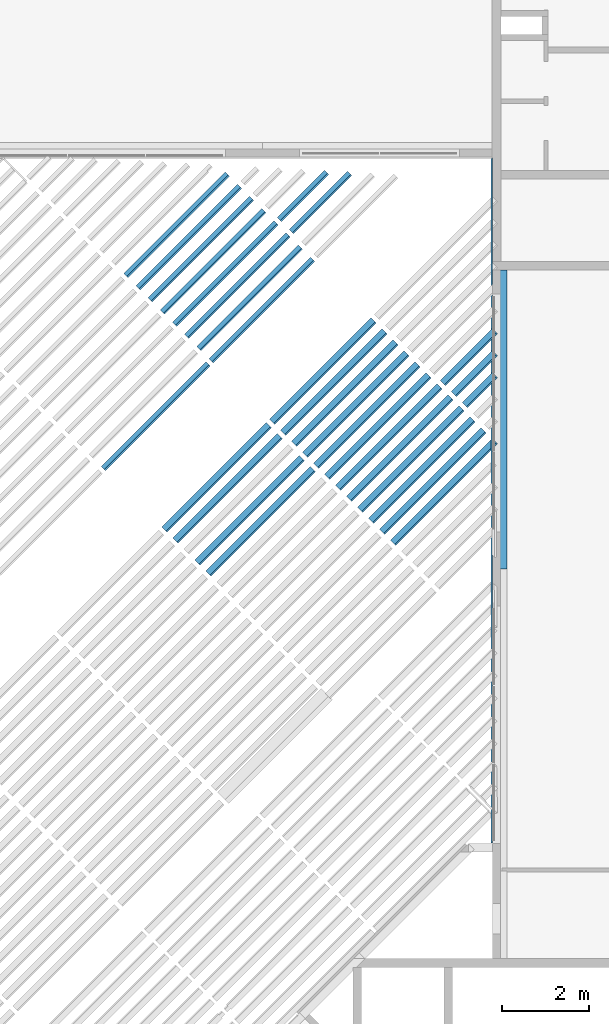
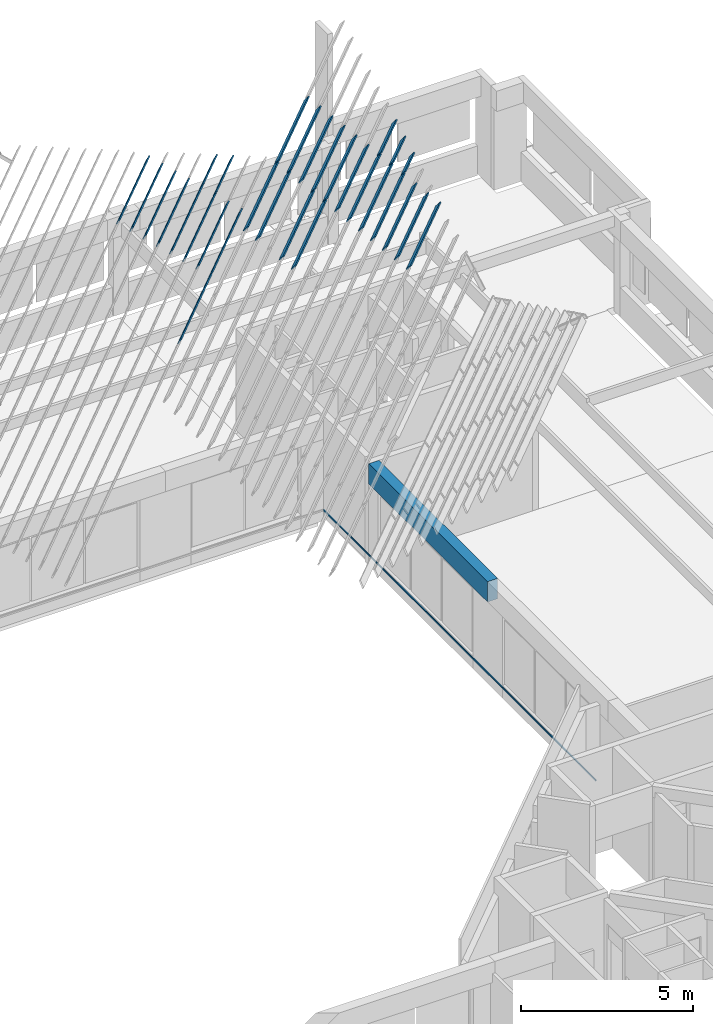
# One storey, part 13 of 37: 31 beams, 1 member.
"""IFC4X3_ADD2 building model written with IfcOpenShell, lengths in millimetres."""

from ifc_helpers import new_model, si_unit, direction, frame, origin_with_axes, origin_2d_with_axis, place, context, subcontext, project, spatial, rectangle, extrude, polygons, source, transform, mapped, material, type_object, type_shapes, element, save


model = new_model("IFC4X3_ADD2")

# Units and contexts
model_context = context("Model", 3, precision=1e-05, world=origin_with_axes(), true_north=direction((0.0, 1.0)))
body_context = subcontext(model_context, "Body", "Model", "MODEL_VIEW")
ifc_project = project(units=[si_unit("LENGTHUNIT", "METRE", prefix="MILLI"), si_unit("AREAUNIT", "SQUARE_METRE"), si_unit("VOLUMEUNIT", "CUBIC_METRE"), si_unit("PLANEANGLEUNIT", "RADIAN"), si_unit("TIMEUNIT", "SECOND"), si_unit("MASSUNIT", "GRAM")], contexts=[model_context])

# Site, building, storey
site_placement = place(None, origin_with_axes())
site = spatial("IfcSite", under=ifc_project, at=site_placement, Name="Site", CompositionType="ELEMENT")
building_placement = place(site_placement, origin_with_axes())
building = spatial("IfcBuilding", under=site, at=building_placement, Name="IFC Building Story")
storey_placement = place(building_placement, frame((0.0, 0.0, 3600.0), z_axis=(0.0, 0.0, 1.0), x_axis=(1.0, 0.0, 0.0)))
storey = spatial("IfcBuildingStorey", under=building, at=storey_placement, Name="010", Elevation=3600.0)

# Beams
ifc_material_1 = material(Name="BB_Beton_Bestaand")
beam_type_1 = type_object("IfcBeamType", Name="BB_XX_Betonbalk_ rechthoekig_ center-center_SFB_340 x 720 mm55", PredefinedType="NOTDEFINED")
shared_shape_1 = source(origin_with_axes(), body_context, "Body", "SweptSolid", [
    extrude(rectangle(XDim=6900.00000000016, YDim=340.0, at=origin_2d_with_axis()), frame((-5.002220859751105e-12, 0.0, -360.0), z_axis=(0.0, 0.0, 1.0), x_axis=(1.0, 0.0, 0.0)), (0.0, 0.0, 1.0), 720.0),
])
type_shapes(beam_type_1, [shared_shape_1])
beam_1_placement = place(storey_placement, frame((-12525.0040658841, 32550.0, 3040.0), z_axis=(0.0, 0.0, 1.0), x_axis=(0.0, 1.0, 0.0)))
element("IfcBeam", 1, at=beam_1_placement, inside=storey, type_object=beam_type_1, material=ifc_material_1, Name="BB_XX_Betonbalk, rechthoekig, center-center_SFB:340 x 720 mm", ObjectType="340 x 720 mm", PredefinedType="BEAM", context=body_context, shape_type="MappedRepresentation", body=[
    mapped(shared_shape_1, transform((0.0, 0.0, 0.0))),
])
ifc_material_2 = material(Name="GVH_i2_naaldhout_generiek")
beam_type_2 = type_object("IfcBeamType", Name="28_SF_hout_rechthoekig_40 x 230", PredefinedType="NOTDEFINED")
shared_shape_2 = source(origin_with_axes(), body_context, "Body", "SweptSolid", [
    extrude(rectangle(XDim=3317.28004584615, YDim=40.0000000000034, at=origin_2d_with_axis()), frame((-49.08169828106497, 0.0, -115.0), z_axis=(0.0, 0.0, 1.0), x_axis=(1.0, 0.0, 0.0)), (0.0, 0.0, 1.0), 229.9999999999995),
])
type_shapes(beam_type_2, [shared_shape_2])
beam_2_placement = place(storey_placement, frame((-18053.7015192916, 35040.3509081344, 13650.1221194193), z_axis=(0.311937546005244, -0.311937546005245, 0.8974351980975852), x_axis=(-0.7071067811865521, -0.707106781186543, 0.0)))
element("IfcBeam", 2, at=beam_2_placement, inside=storey, type_object=beam_type_2, material=ifc_material_2, Name="28_SF_hout_rechthoekig:40 x 230", ObjectType="40 x 230", PredefinedType="BEAM", context=body_context, shape_type="MappedRepresentation", body=[
    mapped(shared_shape_2, transform((0.0, 0.0, 0.0))),
])
beam_type_3 = type_object("IfcBeamType", Name="28_SF_hout_rechthoekig_40 x 230_1", PredefinedType="NOTDEFINED")
shared_shape_3 = source(origin_with_axes(), body_context, "Body", "SweptSolid", [
    extrude(rectangle(XDim=3317.2800940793, YDim=40.0000000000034, at=origin_2d_with_axis()), frame((-49.08180880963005, 0.0, -115.0), z_axis=(0.0, 0.0, 1.0), x_axis=(1.0, 0.0, 0.0)), (0.0, 0.0, 1.0), 229.9999999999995),
])
type_shapes(beam_type_3, [shared_shape_3])
beam_3_placement = place(storey_placement, frame((-18334.6946566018, 35321.3440454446, 13845.4617046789), z_axis=(0.311937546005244, -0.311937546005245, 0.8974351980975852), x_axis=(-0.7071067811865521, -0.707106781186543, 0.0)))
element("IfcBeam", 3, at=beam_3_placement, inside=storey, type_object=beam_type_3, material=ifc_material_2, Name="28_SF_hout_rechthoekig:40 x 230", ObjectType="40 x 230", PredefinedType="BEAM", context=body_context, shape_type="MappedRepresentation", body=[
    mapped(shared_shape_3, transform((0.0, 0.0, 0.0))),
])
beam_type_4 = type_object("IfcBeamType", Name="28_SF_hout_rechthoekig_40 x 230_3", PredefinedType="NOTDEFINED")
shared_shape_4 = source(origin_with_axes(), body_context, "Body", "SweptSolid", [
    extrude(rectangle(XDim=3317.28014231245, YDim=40.0000000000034, at=origin_2d_with_axis()), frame((-49.08191933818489, 0.0, -115.0), z_axis=(0.0, 0.0, 1.0), x_axis=(1.0, 0.0, 0.0)), (0.0, 0.0, 1.0), 229.9999999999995),
])
type_shapes(beam_type_4, [shared_shape_4])
beam_4_placement = place(storey_placement, frame((-18615.687793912, 35602.3371827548, 14040.8012899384), z_axis=(0.311937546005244, -0.311937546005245, 0.8974351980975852), x_axis=(-0.7071067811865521, -0.707106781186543, 0.0)))
element("IfcBeam", 4, at=beam_4_placement, inside=storey, type_object=beam_type_4, material=ifc_material_2, Name="28_SF_hout_rechthoekig:40 x 230", ObjectType="40 x 230", PredefinedType="BEAM", context=body_context, shape_type="MappedRepresentation", body=[
    mapped(shared_shape_4, transform((0.0, 0.0, 0.0))),
])
beam_type_5 = type_object("IfcBeamType", Name="28_SF_hout_rechthoekig_40 x 230_5", PredefinedType="NOTDEFINED")
shared_shape_5 = source(origin_with_axes(), body_context, "Body", "SweptSolid", [
    extrude(rectangle(XDim=3317.28019054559, YDim=40.0000000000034, at=origin_2d_with_axis()), frame((-49.08202986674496, 0.0, -115.0), z_axis=(0.0, 0.0, 1.0), x_axis=(1.0, 0.0, 0.0)), (0.0, 0.0, 1.0), 229.999999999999),
])
type_shapes(beam_type_5, [shared_shape_5])
beam_5_placement = place(storey_placement, frame((-18896.6809312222, 35883.3303200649, 14236.140875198), z_axis=(0.311937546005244, -0.311937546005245, 0.8974351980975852), x_axis=(-0.7071067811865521, -0.707106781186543, 0.0)))
element("IfcBeam", 5, at=beam_5_placement, inside=storey, type_object=beam_type_5, material=ifc_material_2, Name="28_SF_hout_rechthoekig:40 x 230", ObjectType="40 x 230", PredefinedType="BEAM", context=body_context, shape_type="MappedRepresentation", body=[
    mapped(shared_shape_5, transform((0.0, 0.0, 0.0))),
])
beam_type_6 = type_object("IfcBeamType", Name="28_SF_hout_rechthoekig_40 x 230_7", PredefinedType="NOTDEFINED")
shared_shape_6 = source(origin_with_axes(), body_context, "Body", "SweptSolid", [
    extrude(rectangle(XDim=3317.28023877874, YDim=40.0000000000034, at=origin_2d_with_axis()), frame((-49.08214039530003, 0.0, -115.0), z_axis=(0.0, 0.0, 1.0), x_axis=(1.0, 0.0, 0.0)), (0.0, 0.0, 1.0), 229.999999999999),
])
type_shapes(beam_type_6, [shared_shape_6])
beam_6_placement = place(storey_placement, frame((-19177.6740685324, 36164.3234573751, 14431.4804604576), z_axis=(0.311937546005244, -0.311937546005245, 0.8974351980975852), x_axis=(-0.7071067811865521, -0.707106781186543, 0.0)))
element("IfcBeam", 6, at=beam_6_placement, inside=storey, type_object=beam_type_6, material=ifc_material_2, Name="28_SF_hout_rechthoekig:40 x 230", ObjectType="40 x 230", PredefinedType="BEAM", context=body_context, shape_type="MappedRepresentation", body=[
    mapped(shared_shape_6, transform((0.0, 0.0, 0.0))),
])
beam_type_7 = type_object("IfcBeamType", Name="28_SF_hout_rechthoekig_40 x 230_9", PredefinedType="NOTDEFINED")
shared_shape_7 = source(origin_with_axes(), body_context, "Body", "SweptSolid", [
    extrude(rectangle(XDim=3317.28028701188, YDim=40.0000000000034, at=origin_2d_with_axis()), frame((-49.0822509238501, 0.0, -115.0), z_axis=(0.0, 0.0, 1.0), x_axis=(1.0, 0.0, 0.0)), (0.0, 0.0, 1.0), 229.999999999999),
])
type_shapes(beam_type_7, [shared_shape_7])
beam_7_placement = place(storey_placement, frame((-19458.6672058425, 36445.3165946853, 14626.8200457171), z_axis=(0.311937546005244, -0.311937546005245, 0.8974351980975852), x_axis=(-0.7071067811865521, -0.707106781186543, 0.0)))
element("IfcBeam", 7, at=beam_7_placement, inside=storey, type_object=beam_type_7, material=ifc_material_2, Name="28_SF_hout_rechthoekig:40 x 230", ObjectType="40 x 230", PredefinedType="BEAM", context=body_context, shape_type="MappedRepresentation", body=[
    mapped(shared_shape_7, transform((0.0, 0.0, 0.0))),
])
beam_type_8 = type_object("IfcBeamType", Name="28_SF_hout_rechthoekig_40 x 230_11", PredefinedType="NOTDEFINED")
shared_shape_8 = source(origin_with_axes(), body_context, "Body", "SweptSolid", [
    extrude(rectangle(XDim=3317.28033524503, YDim=40.0000000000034, at=origin_2d_with_axis()), frame((-49.08236145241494, 0.0, -115.0), z_axis=(0.0, 0.0, 1.0), x_axis=(1.0, 0.0, 0.0)), (0.0, 0.0, 1.0), 229.999999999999),
])
type_shapes(beam_type_8, [shared_shape_8])
beam_8_placement = place(storey_placement, frame((-19739.6603431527, 36726.3097319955, 14822.1596309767), z_axis=(0.311937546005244, -0.311937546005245, 0.8974351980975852), x_axis=(-0.7071067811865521, -0.707106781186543, 0.0)))
element("IfcBeam", 8, at=beam_8_placement, inside=storey, type_object=beam_type_8, material=ifc_material_2, Name="28_SF_hout_rechthoekig:40 x 230", ObjectType="40 x 230", PredefinedType="BEAM", context=body_context, shape_type="MappedRepresentation", body=[
    mapped(shared_shape_8, transform((0.0, 0.0, 0.0))),
])
beam_type_9 = type_object("IfcBeamType", Name="28_SF_hout_rechthoekig_40 x 230_13", PredefinedType="NOTDEFINED")
shared_shape_9 = source(origin_with_axes(), body_context, "Body", "SweptSolid", [
    extrude(rectangle(XDim=3317.28038347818, YDim=40.0000000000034, at=origin_2d_with_axis()), frame((-64.08247198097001, 0.0, -115.0), z_axis=(0.0, 0.0, 1.0), x_axis=(1.0, 0.0, 0.0)), (0.0, 0.0, 1.0), 229.9999999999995),
])
type_shapes(beam_type_9, [shared_shape_9])
beam_9_placement = place(storey_placement, frame((-20031.2600821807, 36996.6962675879, 15017.4992162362), z_axis=(0.311937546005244, -0.311937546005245, 0.8974351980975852), x_axis=(-0.7071067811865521, -0.707106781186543, 0.0)))
element("IfcBeam", 9, at=beam_9_placement, inside=storey, type_object=beam_type_9, material=ifc_material_2, Name="28_SF_hout_rechthoekig:40 x 230", ObjectType="40 x 230", PredefinedType="BEAM", context=body_context, shape_type="MappedRepresentation", body=[
    mapped(shared_shape_9, transform((0.0, 0.0, 0.0))),
])
beam_type_10 = type_object("IfcBeamType", Name="28_SF_hout_rechthoekig_40 x 230_199", PredefinedType="NOTDEFINED")
shared_shape_10 = source(origin_with_axes(), body_context, "Body", "SweptSolid", [
    extrude(rectangle(XDim=3417.27000002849, YDim=40.0000000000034, at=origin_2d_with_axis()), frame((3.413324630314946, 0.0, -115.0), z_axis=(0.0, 0.0, 1.0), x_axis=(1.0, 0.0, 0.0)), (0.0, 0.0, 1.0), 229.999999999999),
])
type_shapes(beam_type_10, [shared_shape_10])
beam_10_placement = place(storey_placement, frame((-20468.3156135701, 32625.7368138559, 13650.1221194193), z_axis=(0.311937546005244, -0.311937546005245, 0.8974351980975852), x_axis=(-0.7071067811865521, -0.707106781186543, 0.0)))
element("IfcBeam", 10, at=beam_10_placement, inside=storey, type_object=beam_type_10, material=ifc_material_2, Name="28_SF_hout_rechthoekig:40 x 230", ObjectType="40 x 230", PredefinedType="BEAM", context=body_context, shape_type="MappedRepresentation", body=[
    mapped(shared_shape_10, transform((0.0, 0.0, 0.0))),
])
beam_type_11 = type_object("IfcBeamType", Name="28_SF_hout_rechthoekig_40 x 230_249", PredefinedType="NOTDEFINED")
shared_shape_11 = source(origin_with_axes(), body_context, "Body", "SweptSolid", [
    extrude(rectangle(XDim=1902.56835221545, YDim=40.0000000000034, at=origin_2d_with_axis()), frame((-51.72584502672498, 0.0, -115.0), z_axis=(0.0, 0.0, 1.0), x_axis=(1.0, 0.0, 0.0)), (0.0, 0.0, 1.0), 229.9999999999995),
])
type_shapes(beam_type_11, [shared_shape_11])
beam_11_placement = place(storey_placement, frame((-16701.3515199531, 37516.6734567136, 14040.8012899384), z_axis=(0.311937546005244, -0.311937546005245, 0.8974351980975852), x_axis=(-0.7071067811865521, -0.707106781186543, 0.0)))
element("IfcBeam", 11, at=beam_11_placement, inside=storey, type_object=beam_type_11, material=ifc_material_2, Name="28_SF_hout_rechthoekig:40 x 230", ObjectType="40 x 230", PredefinedType="BEAM", context=body_context, shape_type="MappedRepresentation", body=[
    mapped(shared_shape_11, transform((0.0, 0.0, 0.0))),
])
beam_type_12 = type_object("IfcBeamType", Name="28_SF_hout_rechthoekig_40 x 230_251", PredefinedType="NOTDEFINED")
shared_shape_12 = source(origin_with_axes(), body_context, "Body", "SweptSolid", [
    extrude(rectangle(XDim=1546.14576452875, YDim=40.0000000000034, at=origin_2d_with_axis()), frame((-33.51468582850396, 0.0, -115.0), z_axis=(0.0, 0.0, 1.0), x_axis=(1.0, 0.0, 0.0)), (0.0, 0.0, 1.0), 230.0),
])
type_shapes(beam_type_12, [shared_shape_12])
beam_12_placement = place(storey_placement, frame((-17095.4817422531, 37684.5295090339, 14236.140875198), z_axis=(0.311937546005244, -0.311937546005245, 0.8974351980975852), x_axis=(-0.7071067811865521, -0.707106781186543, 0.0)))
element("IfcBeam", 12, at=beam_12_placement, inside=storey, type_object=beam_type_12, material=ifc_material_2, Name="28_SF_hout_rechthoekig:40 x 230", ObjectType="40 x 230", PredefinedType="BEAM", context=body_context, shape_type="MappedRepresentation", body=[
    mapped(shared_shape_12, transform((0.0, 0.0, 0.0))),
])
beam_type_13 = type_object("IfcBeamType", Name="28_SF_hout_rechthoekig_40 x 230_485", PredefinedType="NOTDEFINED")
shared_shape_13 = source(origin_with_axes(), body_context, "Body", "SweptSolid", [
    extrude(rectangle(XDim=3415.44976851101, YDim=40.0000000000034, at=origin_2d_with_axis()), frame((-25.0772024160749, 0.0, -115.0), z_axis=(0.0, 0.0, 1.0), x_axis=(1.0, 0.0, 0.0)), (0.0, 0.0, 1.0), 229.999999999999),
])
type_shapes(beam_type_13, [shared_shape_13])
beam_13_placement = place(storey_placement, frame((-18063.8369916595, 30179.6885491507, 16900.9736820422), z_axis=(0.4307932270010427, -0.4307932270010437, 0.7929907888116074), x_axis=(-0.7071067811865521, -0.707106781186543, 0.0)))
element("IfcBeam", 13, at=beam_13_placement, inside=storey, type_object=beam_type_13, material=ifc_material_2, Name="28_SF_hout_rechthoekig:40 x 230", ObjectType="40 x 230", PredefinedType="BEAM", context=body_context, shape_type="MappedRepresentation", body=[
    mapped(shared_shape_13, transform((0.0, 0.0, 0.0))),
])
beam_type_14 = type_object("IfcBeamType", Name="28_SF_hout_rechthoekig_40 x 230_487", PredefinedType="NOTDEFINED")
shared_shape_14 = source(origin_with_axes(), body_context, "Body", "SweptSolid", [
    extrude(rectangle(XDim=3415.44981957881, YDim=40.0000000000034, at=origin_2d_with_axis()), frame((-25.07717688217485, 0.0, -115.0), z_axis=(0.0, 0.0, 1.0), x_axis=(1.0, 0.0, 0.0)), (0.0, 0.0, 1.0), 229.999999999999),
])
type_shapes(beam_type_14, [shared_shape_14])
beam_14_placement = place(storey_placement, frame((-18317.8473030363, 30433.6988605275, 17176.9565138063), z_axis=(0.4307932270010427, -0.4307932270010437, 0.7929907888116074), x_axis=(-0.7071067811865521, -0.707106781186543, 0.0)))
element("IfcBeam", 14, at=beam_14_placement, inside=storey, type_object=beam_type_14, material=ifc_material_2, Name="28_SF_hout_rechthoekig:40 x 230", ObjectType="40 x 230", PredefinedType="BEAM", context=body_context, shape_type="MappedRepresentation", body=[
    mapped(shared_shape_14, transform((0.0, 0.0, 0.0))),
])
beam_type_15 = type_object("IfcBeamType", Name="28_SF_hout_rechthoekig_40 x 230_491", PredefinedType="NOTDEFINED")
shared_shape_15 = source(origin_with_axes(), body_context, "Body", "SweptSolid", [
    extrude(rectangle(XDim=3415.44992171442, YDim=40.0000000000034, at=origin_2d_with_axis()), frame((-25.07712581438, 0.0, -115.0), z_axis=(0.0, 0.0, 1.0), x_axis=(1.0, 0.0, 0.0)), (0.0, 0.0, 1.0), 229.999999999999),
])
type_shapes(beam_type_15, [shared_shape_15])
beam_15_placement = place(storey_placement, frame((-18825.8679257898, 30941.719483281, 17728.9221773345), z_axis=(0.4307932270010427, -0.4307932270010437, 0.7929907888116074), x_axis=(-0.7071067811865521, -0.707106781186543, 0.0)))
element("IfcBeam", 15, at=beam_15_placement, inside=storey, type_object=beam_type_15, material=ifc_material_2, Name="28_SF_hout_rechthoekig:40 x 230", ObjectType="40 x 230", PredefinedType="BEAM", context=body_context, shape_type="MappedRepresentation", body=[
    mapped(shared_shape_15, transform((0.0, 0.0, 0.0))),
])
beam_type_16 = type_object("IfcBeamType", Name="28_SF_hout_rechthoekig_40 x 230_493", PredefinedType="NOTDEFINED")
shared_shape_16 = source(origin_with_axes(), body_context, "Body", "SweptSolid", [
    extrude(rectangle(XDim=3415.44997278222, YDim=40.0000000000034, at=origin_2d_with_axis()), frame((-25.07710028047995, 0.0, -115.0), z_axis=(0.0, 0.0, 1.0), x_axis=(1.0, 0.0, 0.0)), (0.0, 0.0, 1.0), 229.999999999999),
])
type_shapes(beam_type_16, [shared_shape_16])
beam_16_placement = place(storey_placement, frame((-19079.8782371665, 31195.7297946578, 18004.9050090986), z_axis=(0.4307932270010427, -0.4307932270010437, 0.7929907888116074), x_axis=(-0.7071067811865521, -0.707106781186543, 0.0)))
element("IfcBeam", 16, at=beam_16_placement, inside=storey, type_object=beam_type_16, material=ifc_material_2, Name="28_SF_hout_rechthoekig:40 x 230", ObjectType="40 x 230", PredefinedType="BEAM", context=body_context, shape_type="MappedRepresentation", body=[
    mapped(shared_shape_16, transform((0.0, 0.0, 0.0))),
])
beam_type_17 = type_object("IfcBeamType", Name="28_SF_hout_rechthoekig_40 x 230_495", PredefinedType="NOTDEFINED")
shared_shape_17 = source(origin_with_axes(), body_context, "Body", "SweptSolid", [
    extrude(rectangle(XDim=3319.10002722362, YDim=40.0000000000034, at=origin_2d_with_axis()), frame((27.64789971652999, 0.0, -115.0), z_axis=(0.0, 0.0, 1.0), x_axis=(1.0, 0.0, 0.0)), (0.0, 0.0, 1.0), 230.0),
])
type_shapes(beam_type_17, [shared_shape_17])
beam_17_placement = place(storey_placement, frame((-16590.8623673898, 33684.7456644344, 18004.9050090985), z_axis=(0.4307932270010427, -0.4307932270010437, 0.7929907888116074), x_axis=(-0.7071067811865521, -0.707106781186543, 0.0)))
element("IfcBeam", 17, at=beam_17_placement, inside=storey, type_object=beam_type_17, material=ifc_material_2, Name="28_SF_hout_rechthoekig:40 x 230", ObjectType="40 x 230", PredefinedType="BEAM", context=body_context, shape_type="MappedRepresentation", body=[
    mapped(shared_shape_17, transform((0.0, 0.0, 0.0))),
])
beam_type_18 = type_object("IfcBeamType", Name="28_SF_hout_rechthoekig_40 x 230_497", PredefinedType="NOTDEFINED")
shared_shape_18 = source(origin_with_axes(), body_context, "Body", "SweptSolid", [
    extrude(rectangle(XDim=3319.10007829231, YDim=40.0000000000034, at=origin_2d_with_axis()), frame((27.64787418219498, 0.0, -115.0), z_axis=(0.0, 0.0, 1.0), x_axis=(1.0, 0.0, 0.0)), (0.0, 0.0, 1.0), 230.0),
])
type_shapes(beam_type_18, [shared_shape_18])
beam_18_placement = place(storey_placement, frame((-16336.8520560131, 33430.7353530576, 17728.9221773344), z_axis=(0.4307932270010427, -0.4307932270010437, 0.7929907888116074), x_axis=(-0.7071067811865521, -0.707106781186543, 0.0)))
element("IfcBeam", 18, at=beam_18_placement, inside=storey, type_object=beam_type_18, material=ifc_material_2, Name="28_SF_hout_rechthoekig:40 x 230", ObjectType="40 x 230", PredefinedType="BEAM", context=body_context, shape_type="MappedRepresentation", body=[
    mapped(shared_shape_18, transform((0.0, 0.0, 0.0))),
])
beam_type_19 = type_object("IfcBeamType", Name="28_SF_hout_rechthoekig_40 x 230_499", PredefinedType="NOTDEFINED")
shared_shape_19 = source(origin_with_axes(), body_context, "Body", "SweptSolid", [
    extrude(rectangle(XDim=3319.10012936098, YDim=40.0000000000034, at=origin_2d_with_axis()), frame((27.6478486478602, 0.0, -115.0), z_axis=(0.0, 0.0, 1.0), x_axis=(1.0, 0.0, 0.0)), (0.0, 0.0, 1.0), 230.0),
])
type_shapes(beam_type_19, [shared_shape_19])
beam_19_placement = place(storey_placement, frame((-16082.8417446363, 33176.7250416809, 17452.9393455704), z_axis=(0.4307932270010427, -0.4307932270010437, 0.7929907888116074), x_axis=(-0.7071067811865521, -0.707106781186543, 0.0)))
element("IfcBeam", 19, at=beam_19_placement, inside=storey, type_object=beam_type_19, material=ifc_material_2, Name="28_SF_hout_rechthoekig:40 x 230", ObjectType="40 x 230", PredefinedType="BEAM", context=body_context, shape_type="MappedRepresentation", body=[
    mapped(shared_shape_19, transform((0.0, 0.0, 0.0))),
])
beam_type_20 = type_object("IfcBeamType", Name="28_SF_hout_rechthoekig_40 x 230_501", PredefinedType="NOTDEFINED")
shared_shape_20 = source(origin_with_axes(), body_context, "Body", "SweptSolid", [
    extrude(rectangle(XDim=3319.10018042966, YDim=40.0000000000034, at=origin_2d_with_axis()), frame((27.64782311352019, 0.0, -115.0), z_axis=(0.0, 0.0, 1.0), x_axis=(1.0, 0.0, 0.0)), (0.0, 0.0, 1.0), 230.0),
])
type_shapes(beam_type_20, [shared_shape_20])
beam_20_placement = place(storey_placement, frame((-15828.8314332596, 32922.7147303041, 17176.9565138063), z_axis=(0.4307932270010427, -0.4307932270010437, 0.7929907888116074), x_axis=(-0.7071067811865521, -0.707106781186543, 0.0)))
element("IfcBeam", 20, at=beam_20_placement, inside=storey, type_object=beam_type_20, material=ifc_material_2, Name="28_SF_hout_rechthoekig:40 x 230", ObjectType="40 x 230", PredefinedType="BEAM", context=body_context, shape_type="MappedRepresentation", body=[
    mapped(shared_shape_20, transform((0.0, 0.0, 0.0))),
])
beam_type_21 = type_object("IfcBeamType", Name="28_SF_hout_rechthoekig_40 x 230_503", PredefinedType="NOTDEFINED")
shared_shape_21 = source(origin_with_axes(), body_context, "Body", "SweptSolid", [
    extrude(rectangle(XDim=3319.10023149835, YDim=40.0000000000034, at=origin_2d_with_axis()), frame((27.64779757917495, 0.0, -115.0), z_axis=(0.0, 0.0, 1.0), x_axis=(1.0, 0.0, 0.0)), (0.0, 0.0, 1.0), 230.0),
])
type_shapes(beam_type_21, [shared_shape_21])
beam_21_placement = place(storey_placement, frame((-15574.8211218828, 32668.7044189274, 16900.9736820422), z_axis=(0.4307932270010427, -0.4307932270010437, 0.7929907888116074), x_axis=(-0.7071067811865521, -0.707106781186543, 0.0)))
element("IfcBeam", 21, at=beam_21_placement, inside=storey, type_object=beam_type_21, material=ifc_material_2, Name="28_SF_hout_rechthoekig:40 x 230", ObjectType="40 x 230", PredefinedType="BEAM", context=body_context, shape_type="MappedRepresentation", body=[
    mapped(shared_shape_21, transform((0.0, 0.0, 0.0))),
])
beam_type_22 = type_object("IfcBeamType", Name="28_SF_hout_rechthoekig_40 x 230_505", PredefinedType="NOTDEFINED")
shared_shape_22 = source(origin_with_axes(), body_context, "Body", "SweptSolid", [
    extrude(rectangle(XDim=3319.10028256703, YDim=40.0000000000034, at=origin_2d_with_axis()), frame((27.64777204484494, 0.0, -115.0), z_axis=(0.0, 0.0, 1.0), x_axis=(1.0, 0.0, 0.0)), (0.0, 0.0, 1.0), 230.0),
])
type_shapes(beam_type_22, [shared_shape_22])
beam_22_placement = place(storey_placement, frame((-15320.8108105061, 32414.6941075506, 16624.9908502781), z_axis=(0.4307932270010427, -0.4307932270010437, 0.7929907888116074), x_axis=(-0.7071067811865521, -0.707106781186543, 0.0)))
element("IfcBeam", 22, at=beam_22_placement, inside=storey, type_object=beam_type_22, material=ifc_material_2, Name="28_SF_hout_rechthoekig:40 x 230", ObjectType="40 x 230", PredefinedType="BEAM", context=body_context, shape_type="MappedRepresentation", body=[
    mapped(shared_shape_22, transform((0.0, 0.0, 0.0))),
])
beam_type_23 = type_object("IfcBeamType", Name="28_SF_hout_rechthoekig_40 x 230_507", PredefinedType="NOTDEFINED")
shared_shape_23 = source(origin_with_axes(), body_context, "Body", "SweptSolid", [
    extrude(rectangle(XDim=3319.1003336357, YDim=40.0000000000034, at=origin_2d_with_axis()), frame((27.64774651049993, 0.0, -115.0), z_axis=(0.0, 0.0, 1.0), x_axis=(1.0, 0.0, 0.0)), (0.0, 0.0, 1.0), 230.0),
])
type_shapes(beam_type_23, [shared_shape_23])
beam_23_placement = place(storey_placement, frame((-15066.8004991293, 32160.6837961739, 16349.008018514), z_axis=(0.4307932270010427, -0.4307932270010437, 0.7929907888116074), x_axis=(-0.7071067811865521, -0.707106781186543, 0.0)))
element("IfcBeam", 23, at=beam_23_placement, inside=storey, type_object=beam_type_23, material=ifc_material_2, Name="28_SF_hout_rechthoekig:40 x 230", ObjectType="40 x 230", PredefinedType="BEAM", context=body_context, shape_type="MappedRepresentation", body=[
    mapped(shared_shape_23, transform((0.0, 0.0, 0.0))),
])
beam_type_24 = type_object("IfcBeamType", Name="28_SF_hout_rechthoekig_40 x 230_509", PredefinedType="NOTDEFINED")
shared_shape_24 = source(origin_with_axes(), body_context, "Body", "SweptSolid", [
    extrude(rectangle(XDim=3319.10038470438, YDim=40.0000000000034, at=origin_2d_with_axis()), frame((27.64772097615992, 0.0, -115.0), z_axis=(0.0, 0.0, 1.0), x_axis=(1.0, 0.0, 0.0)), (0.0, 0.0, 1.0), 230.0),
])
type_shapes(beam_type_24, [shared_shape_24])
beam_24_placement = place(storey_placement, frame((-14812.7901877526, 31906.6734847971, 16073.0251867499), z_axis=(0.4307932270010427, -0.4307932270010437, 0.7929907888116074), x_axis=(-0.7071067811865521, -0.707106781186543, 0.0)))
element("IfcBeam", 24, at=beam_24_placement, inside=storey, type_object=beam_type_24, material=ifc_material_2, Name="28_SF_hout_rechthoekig:40 x 230", ObjectType="40 x 230", PredefinedType="BEAM", context=body_context, shape_type="MappedRepresentation", body=[
    mapped(shared_shape_24, transform((0.0, 0.0, 0.0))),
])
beam_type_25 = type_object("IfcBeamType", Name="28_SF_hout_rechthoekig_40 x 230_511", PredefinedType="NOTDEFINED")
shared_shape_25 = source(origin_with_axes(), body_context, "Body", "SweptSolid", [
    extrude(rectangle(XDim=3319.10043577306, YDim=40.0000000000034, at=origin_2d_with_axis()), frame((27.64769544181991, 0.0, -115.0), z_axis=(0.0, 0.0, 1.0), x_axis=(1.0, 0.0, 0.0)), (0.0, 0.0, 1.0), 230.0),
])
type_shapes(beam_type_25, [shared_shape_25])
beam_25_placement = place(storey_placement, frame((-14558.7798763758, 31652.6631734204, 15797.0423549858), z_axis=(0.4307932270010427, -0.4307932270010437, 0.7929907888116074), x_axis=(-0.7071067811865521, -0.707106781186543, 0.0)))
element("IfcBeam", 25, at=beam_25_placement, inside=storey, type_object=beam_type_25, material=ifc_material_2, Name="28_SF_hout_rechthoekig:40 x 230", ObjectType="40 x 230", PredefinedType="BEAM", context=body_context, shape_type="MappedRepresentation", body=[
    mapped(shared_shape_25, transform((0.0, 0.0, 0.0))),
])
beam_type_26 = type_object("IfcBeamType", Name="28_SF_hout_rechthoekig_40 x 230_513", PredefinedType="NOTDEFINED")
shared_shape_26 = source(origin_with_axes(), body_context, "Body", "SweptSolid", [
    extrude(rectangle(XDim=3319.10048684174, YDim=40.0000000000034, at=origin_2d_with_axis()), frame((27.64766990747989, 0.0, -115.0), z_axis=(0.0, 0.0, 1.0), x_axis=(1.0, 0.0, 0.0)), (0.0, 0.0, 1.0), 230.0),
])
type_shapes(beam_type_26, [shared_shape_26])
beam_26_placement = place(storey_placement, frame((-14304.7695649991, 31398.6528620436, 15521.0595232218), z_axis=(0.4307932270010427, -0.4307932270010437, 0.7929907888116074), x_axis=(-0.7071067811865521, -0.707106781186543, 0.0)))
element("IfcBeam", 26, at=beam_26_placement, inside=storey, type_object=beam_type_26, material=ifc_material_2, Name="28_SF_hout_rechthoekig:40 x 230", ObjectType="40 x 230", PredefinedType="BEAM", context=body_context, shape_type="MappedRepresentation", body=[
    mapped(shared_shape_26, transform((0.0, 0.0, 0.0))),
])
beam_type_27 = type_object("IfcBeamType", Name="28_SF_hout_rechthoekig_40 x 230_515", PredefinedType="NOTDEFINED")
shared_shape_27 = source(origin_with_axes(), body_context, "Body", "SweptSolid", [
    extrude(rectangle(XDim=3319.10053791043, YDim=40.0000000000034, at=origin_2d_with_axis()), frame((27.64764437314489, 0.0, -115.0), z_axis=(0.0, 0.0, 1.0), x_axis=(1.0, 0.0, 0.0)), (0.0, 0.0, 1.0), 230.0),
])
type_shapes(beam_type_27, [shared_shape_27])
beam_27_placement = place(storey_placement, frame((-14050.7592536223, 31144.6425506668, 15245.0766914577), z_axis=(0.4307932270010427, -0.4307932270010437, 0.7929907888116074), x_axis=(-0.7071067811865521, -0.707106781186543, 0.0)))
element("IfcBeam", 27, at=beam_27_placement, inside=storey, type_object=beam_type_27, material=ifc_material_2, Name="28_SF_hout_rechthoekig:40 x 230", ObjectType="40 x 230", PredefinedType="BEAM", context=body_context, shape_type="MappedRepresentation", body=[
    mapped(shared_shape_27, transform((0.0, 0.0, 0.0))),
])
beam_type_28 = type_object("IfcBeamType", Name="28_SF_hout_rechthoekig_40 x 230_517", PredefinedType="NOTDEFINED")
shared_shape_28 = source(origin_with_axes(), body_context, "Body", "SweptSolid", [
    extrude(rectangle(XDim=3327.41708455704, YDim=40.0000000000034, at=origin_2d_with_axis()), frame((23.4893710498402, 0.0, -115.0), z_axis=(0.0, 0.0, 1.0), x_axis=(1.0, 0.0, 0.0)), (0.0, 0.0, 1.0), 230.0),
])
type_shapes(beam_type_28, [shared_shape_28])
beam_28_placement = place(storey_placement, frame((-13796.7489422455, 30890.6322392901, 14969.0938596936), z_axis=(0.4307932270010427, -0.4307932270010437, 0.7929907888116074), x_axis=(-0.7071067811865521, -0.707106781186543, 0.0)))
element("IfcBeam", 28, at=beam_28_placement, inside=storey, type_object=beam_type_28, material=ifc_material_2, Name="28_SF_hout_rechthoekig:40 x 230", ObjectType="40 x 230", PredefinedType="BEAM", context=body_context, shape_type="MappedRepresentation", body=[
    mapped(shared_shape_28, transform((0.0, 0.0, 0.0))),
])
beam_type_29 = type_object("IfcBeamType", Name="28_SF_hout_rechthoekig_40 x 230_539", PredefinedType="NOTDEFINED")
shared_shape_29 = source(origin_with_axes(), body_context, "Body", "SweptSolid", [
    extrude(rectangle(XDim=1704.44329302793, YDim=40.0000000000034, at=origin_2d_with_axis()), frame((836.7387132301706, 0.0, -115.0), z_axis=(0.0, 0.0, 1.0), x_axis=(1.0, 0.0, 0.0)), (0.0, 0.0, 1.0), 229.999999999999),
])
type_shapes(beam_type_29, [shared_shape_29])
beam_29_placement = place(storey_placement, frame((-12647.885229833, 34579.5990654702, 16349.008018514), z_axis=(0.4307932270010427, -0.4307932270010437, 0.7929907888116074), x_axis=(-0.7071067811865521, -0.707106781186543, 0.0)))
element("IfcBeam", 29, at=beam_29_placement, inside=storey, type_object=beam_type_29, material=ifc_material_2, Name="28_SF_hout_rechthoekig:40 x 230", ObjectType="40 x 230", PredefinedType="BEAM", context=body_context, shape_type="MappedRepresentation", body=[
    mapped(shared_shape_29, transform((0.0, 0.0, 0.0))),
])
beam_type_30 = type_object("IfcBeamType", Name="28_SF_hout_rechthoekig_40 x 230_541", PredefinedType="NOTDEFINED")
shared_shape_30 = source(origin_with_axes(), body_context, "Body", "SweptSolid", [
    extrude(rectangle(XDim=1345.2179318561, YDim=40.0000000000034, at=origin_2d_with_axis()), frame((1016.351342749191, 0.0, -115.0), z_axis=(0.0, 0.0, 1.0), x_axis=(1.0, 0.0, 0.0)), (0.0, 0.0, 1.0), 229.999999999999),
])
type_shapes(beam_type_30, [shared_shape_30])
beam_30_placement = place(storey_placement, frame((-12393.8749184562, 34325.5887540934, 16073.0251867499), z_axis=(0.4307932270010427, -0.4307932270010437, 0.7929907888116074), x_axis=(-0.7071067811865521, -0.707106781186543, 0.0)))
element("IfcBeam", 30, at=beam_30_placement, inside=storey, type_object=beam_type_30, material=ifc_material_2, Name="28_SF_hout_rechthoekig:40 x 230", ObjectType="40 x 230", PredefinedType="BEAM", context=body_context, shape_type="MappedRepresentation", body=[
    mapped(shared_shape_30, transform((0.0, 0.0, 0.0))),
])
beam_type_31 = type_object("IfcBeamType", Name="28_SF_hout_rechthoekig_40 x 230_543", PredefinedType="NOTDEFINED")
shared_shape_31 = source(origin_with_axes(), body_context, "Body", "SweptSolid", [
    extrude(rectangle(XDim=985.9925706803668, YDim=40.0000000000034, at=origin_2d_with_axis()), frame((1195.963972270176, 0.0, -115.0), z_axis=(0.0, 0.0, 1.0), x_axis=(1.0, 0.0, 0.0)), (0.0, 0.0, 1.0), 230.0),
])
type_shapes(beam_type_31, [shared_shape_31])
beam_31_placement = place(storey_placement, frame((-12139.8646070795, 34071.5784427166, 15797.0423549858), z_axis=(0.4307932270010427, -0.4307932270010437, 0.7929907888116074), x_axis=(-0.7071067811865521, -0.707106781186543, 0.0)))
element("IfcBeam", 31, at=beam_31_placement, inside=storey, type_object=beam_type_31, material=ifc_material_2, Name="28_SF_hout_rechthoekig:40 x 230", ObjectType="40 x 230", PredefinedType="BEAM", context=body_context, shape_type="MappedRepresentation", body=[
    mapped(shared_shape_31, transform((0.0, 0.0, 0.0))),
])

# Member
ifc_material_3 = material(Name="BB_Metaal_Aluminium_Buitenschrijnwerk")
member_type = type_object("IfcMemberType", Name="BB_10.12.90_Verankeringsrail_GLI_XX_H 50mm x B 30mm1", PredefinedType="NOTDEFINED")
shared_shape_32 = source(origin_with_axes(), body_context, "Body", "Tessellation", [
    polygons([(30.0000000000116, -29.9999999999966, -1.86117787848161e-12), (15830.000000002, -29.9999999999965, -1.86117787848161e-12), (15830.000000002, 8.42605984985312e-12, -1.86117787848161e-12), (6.29698515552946e-12, 8.42676484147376e-12, -1.86117787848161e-12), (15830.000000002, 8.42605984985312e-12, -50.0000000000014), (6.29698515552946e-12, 8.42746983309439e-12, -50.0000000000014), (15830.000000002, -29.9999999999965, -50.0000000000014), (30.0000000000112, -29.9999999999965, -50.0000000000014)], [[[1, 2, 3, 4]], [[4, 3, 5, 6]], [[6, 5, 7, 8]], [[8, 7, 2, 1]], [[4, 6, 8, 1]], [[2, 7, 5, 3]]]),
])
type_shapes(member_type, [shared_shape_32])
member_placement = place(storey_placement, frame((-12695.0040658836, 38605.0, 220.0), z_axis=(0.0, 0.0, 1.0), x_axis=(0.0, -1.0, 0.0)))
element("IfcMember", 32, at=member_placement, inside=storey, type_object=member_type, material=ifc_material_3, Name="BB_10.12.90_Verankeringsrail_GLI:XX_H 50mm x B 30mm", ObjectType="BB_10.12.90_Verankeringsrail_GLI:XX_H 50mm x B 30mm", PredefinedType="USERDEFINED", context=body_context, shape_type="MappedRepresentation", body=[
    mapped(shared_shape_32, transform((0.0, 0.0, 0.0))),
])

save(model, "model.ifc")
